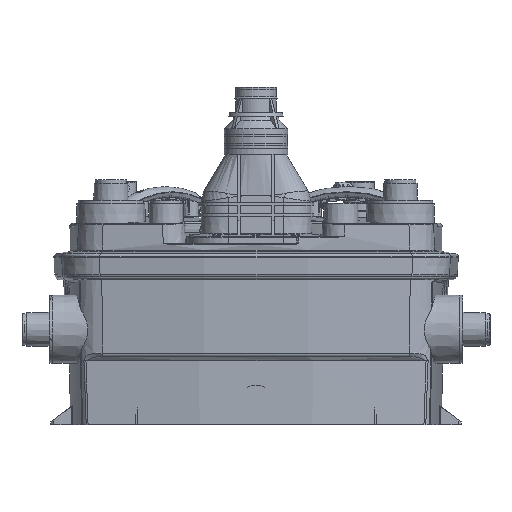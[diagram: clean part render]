
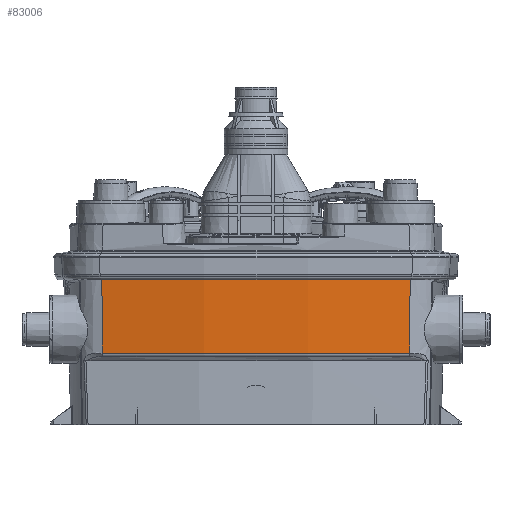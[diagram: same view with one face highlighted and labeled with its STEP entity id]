
A CAD part, front view. The second image highlights one B-rep face of the part: STEP entity #83006.
In plain terms, the highlighted conical face has half-angle 1 degrees and reference radius 1200 mm.
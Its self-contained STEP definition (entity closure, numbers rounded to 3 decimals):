
#886 = DIRECTION ( 'NONE',  ( -1., 0., 0. ) ) ;
#1955 = CARTESIAN_POINT ( 'NONE',  ( 0., 961.495, -5.234 ) ) ;
#2124 = EDGE_CURVE ( 'NONE', #97423, #56415, #29017, .T. ) ;
#24308 = CARTESIAN_POINT ( 'NONE',  ( -226.283, -220.79, 209.285 ) ) ;
#24317 = DIRECTION ( 'NONE',  ( 0.003, 0.017, -1. ) ) ;
#29017 = CIRCLE ( 'NONE', #150432, 1203.744 ) ;
#49943 = FACE_OUTER_BOUND ( 'NONE', #83726, .T. ) ;
#50476 = EDGE_CURVE ( 'NONE', #56415, #76544, #55193, .T. ) ;
#51525 = DIRECTION ( 'NONE',  ( -0.003, 0.017, -1. ) ) ;
#55193 = LINE ( 'NONE', #152115, #144522 ) ;
#56415 = VERTEX_POINT ( 'NONE', #141865 ) ;
#58557 = LINE ( 'NONE', #191766, #187344 ) ;
#59027 = AXIS2_PLACEMENT_3D ( 'NONE', #202047, #101330, #886 ) ;
#59453 = VERTEX_POINT ( 'NONE', #71611 ) ;
#68343 = AXIS2_PLACEMENT_3D ( 'NONE', #1955, #119299, #86290 ) ;
#71611 = CARTESIAN_POINT ( 'NONE',  ( -225.924, -218.915, 99.915 ) ) ;
#74032 = ORIENTED_EDGE ( 'NONE', *, *, #50476, .F. ) ;
#76544 = VERTEX_POINT ( 'NONE', #214806 ) ;
#83006 = ADVANCED_FACE ( 'NONE', ( #49943 ), #162867, .T. ) ;
#83726 = EDGE_LOOP ( 'NONE', ( #208275, #150674, #102940, #74032 ) ) ;
#86290 = DIRECTION ( 'NONE',  ( 1., 0., 0. ) ) ;
#87184 = CARTESIAN_POINT ( 'NONE',  ( 0., 961.495, 209.285 ) ) ;
#97423 = VERTEX_POINT ( 'NONE', #24308 ) ;
#101330 = DIRECTION ( 'NONE',  ( 0., 0., 1. ) ) ;
#102940 = ORIENTED_EDGE ( 'NONE', *, *, #138904, .T. ) ;
#104035 = DIRECTION ( 'NONE',  ( 1., 0., 0. ) ) ;
#119299 = DIRECTION ( 'NONE',  ( 0., 0., 1. ) ) ;
#138904 = EDGE_CURVE ( 'NONE', #59453, #76544, #211337, .T. ) ;
#141865 = CARTESIAN_POINT ( 'NONE',  ( 226.283, -220.79, 209.285 ) ) ;
#144522 = VECTOR ( 'NONE', #51525, 1000. ) ;
#150432 = AXIS2_PLACEMENT_3D ( 'NONE', #87184, #204759, #104035 ) ;
#150674 = ORIENTED_EDGE ( 'NONE', *, *, #183339, .T. ) ;
#152115 = CARTESIAN_POINT ( 'NONE',  ( 225.579, -217.112, -5.234 ) ) ;
#162867 = CONICAL_SURFACE ( 'NONE', #68343, 1200., 0.017 ) ;
#183339 = EDGE_CURVE ( 'NONE', #97423, #59453, #58557, .T. ) ;
#187344 = VECTOR ( 'NONE', #24317, 1000. ) ;
#191766 = CARTESIAN_POINT ( 'NONE',  ( -225.579, -217.112, -5.234 ) ) ;
#202047 = CARTESIAN_POINT ( 'NONE',  ( 0., 961.495, 99.915 ) ) ;
#204759 = DIRECTION ( 'NONE',  ( 0., 0., 1. ) ) ;
#208275 = ORIENTED_EDGE ( 'NONE', *, *, #2124, .F. ) ;
#211337 = CIRCLE ( 'NONE', #59027, 1201.835 ) ;
#214806 = CARTESIAN_POINT ( 'NONE',  ( 225.924, -218.915, 99.915 ) ) ;
